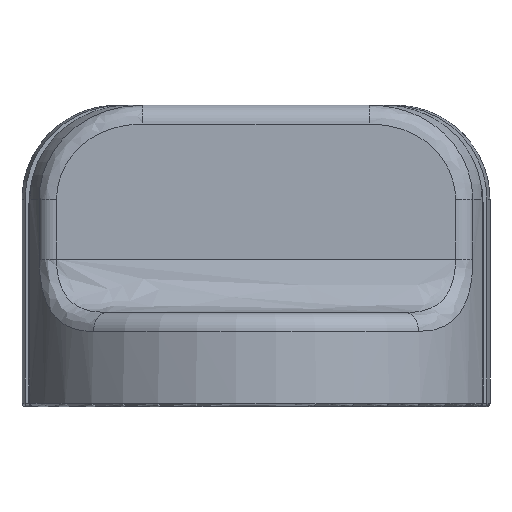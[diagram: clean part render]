
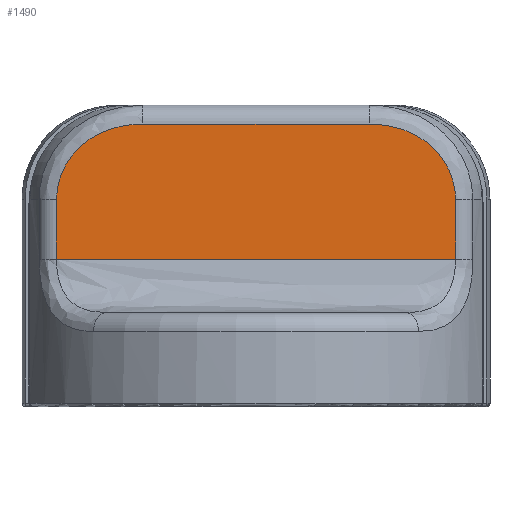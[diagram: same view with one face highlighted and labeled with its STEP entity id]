
A CAD part, left-side view. The second image highlights one B-rep face of the part: STEP entity #1490.
In plain terms, the highlighted planar face has unit normal (-1, 0, 0).
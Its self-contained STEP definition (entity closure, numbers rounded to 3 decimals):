
#68=PLANE('',#1647);
#247=FACE_OUTER_BOUND('',#339,.T.);
#339=EDGE_LOOP('',(#1268,#1269,#1270,#1271,#1272,#1273));
#417=B_SPLINE_CURVE_WITH_KNOTS('',3,(#3225,#3226,#3227,#3228,#3229,#3230),
 .UNSPECIFIED.,.F.,.F.,(4,1,1,4),(0.,0.194,0.387,
0.678),.UNSPECIFIED.);
#419=B_SPLINE_CURVE_WITH_KNOTS('',3,(#3276,#3277,#3278,#3279,#3280,#3281),
 .UNSPECIFIED.,.F.,.F.,(4,1,1,4),(0.,0.291,
0.484,0.678),.UNSPECIFIED.);
#495=LINE('',#3236,#576);
#497=LINE('',#3287,#578);
#499=LINE('',#3386,#580);
#502=LINE('',#3416,#583);
#576=VECTOR('',#1956,10.);
#578=VECTOR('',#1964,10.);
#580=VECTOR('',#1980,10.);
#583=VECTOR('',#1995,10.);
#697=VERTEX_POINT('',#3213);
#700=VERTEX_POINT('',#3223);
#701=VERTEX_POINT('',#3232);
#703=VERTEX_POINT('',#3267);
#705=VERTEX_POINT('',#3283);
#711=VERTEX_POINT('',#3369);
#890=EDGE_CURVE('',#700,#697,#417,.T.);
#893=EDGE_CURVE('',#697,#701,#495,.T.);
#896=EDGE_CURVE('',#701,#703,#419,.T.);
#899=EDGE_CURVE('',#703,#705,#497,.T.);
#910=EDGE_CURVE('',#711,#700,#499,.T.);
#917=EDGE_CURVE('',#705,#711,#502,.T.);
#1268=ORIENTED_EDGE('',*,*,#899,.F.);
#1269=ORIENTED_EDGE('',*,*,#896,.F.);
#1270=ORIENTED_EDGE('',*,*,#893,.F.);
#1271=ORIENTED_EDGE('',*,*,#890,.F.);
#1272=ORIENTED_EDGE('',*,*,#910,.F.);
#1273=ORIENTED_EDGE('',*,*,#917,.F.);
#1490=ADVANCED_FACE('',(#247),#68,.T.);
#1647=AXIS2_PLACEMENT_3D('',#3415,#1993,#1994);
#1956=DIRECTION('',(0.,-1.,0.));
#1964=DIRECTION('',(0.,0.,-1.));
#1980=DIRECTION('',(0.,0.,1.));
#1993=DIRECTION('center_axis',(-1.,0.,0.));
#1994=DIRECTION('ref_axis',(0.,-1.,0.));
#1995=DIRECTION('',(0.,1.,0.));
#3213=CARTESIAN_POINT('',(-5.5,6.,17.));
#3223=CARTESIAN_POINT('',(-5.5,10.583,13.));
#3225=CARTESIAN_POINT('Ctrl Pts',(-5.5,10.583,13.));
#3226=CARTESIAN_POINT('Ctrl Pts',(-5.5,10.583,13.646));
#3227=CARTESIAN_POINT('Ctrl Pts',(-5.5,10.234,14.933));
#3228=CARTESIAN_POINT('Ctrl Pts',(-5.5,8.606,16.602));
#3229=CARTESIAN_POINT('Ctrl Pts',(-5.5,6.968,17.));
#3230=CARTESIAN_POINT('Ctrl Pts',(-5.5,6.,17.));
#3232=CARTESIAN_POINT('',(-5.5,-6.,17.));
#3236=CARTESIAN_POINT('',(-5.5,5.612,17.));
#3267=CARTESIAN_POINT('',(-5.5,-10.583,13.));
#3276=CARTESIAN_POINT('Ctrl Pts',(-5.5,-6.,17.));
#3277=CARTESIAN_POINT('Ctrl Pts',(-5.5,-6.968,17.));
#3278=CARTESIAN_POINT('Ctrl Pts',(-5.5,-8.606,16.602));
#3279=CARTESIAN_POINT('Ctrl Pts',(-5.5,-10.234,14.933));
#3280=CARTESIAN_POINT('Ctrl Pts',(-5.5,-10.583,13.646));
#3281=CARTESIAN_POINT('Ctrl Pts',(-5.5,-10.583,13.));
#3283=CARTESIAN_POINT('',(-5.5,-10.583,9.828));
#3287=CARTESIAN_POINT('',(-5.5,-10.583,0.));
#3369=CARTESIAN_POINT('',(-5.5,10.583,9.828));
#3386=CARTESIAN_POINT('',(-5.5,10.583,0.));
#3415=CARTESIAN_POINT('Origin',(-5.5,11.225,7.));
#3416=CARTESIAN_POINT('',(-5.5,-10.583,9.828));
